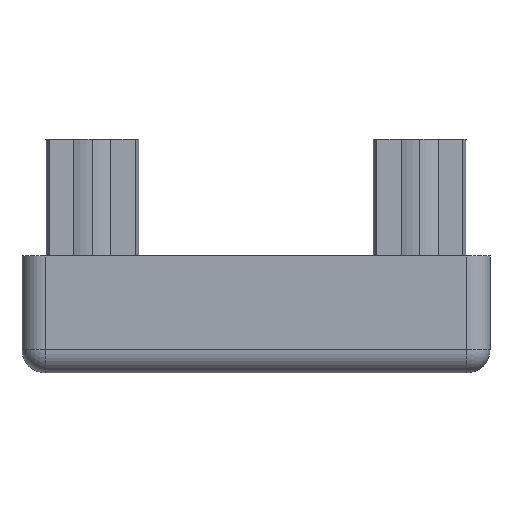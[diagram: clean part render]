
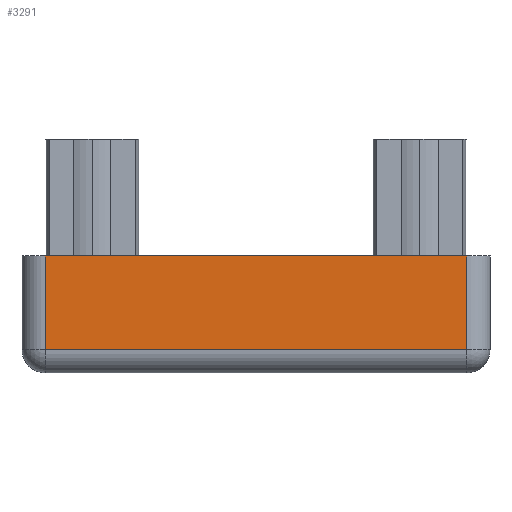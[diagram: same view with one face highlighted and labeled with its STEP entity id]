
A CAD part, left-side view. The second image highlights one B-rep face of the part: STEP entity #3291.
In plain terms, the highlighted planar face has unit normal (-1, 0, 0).
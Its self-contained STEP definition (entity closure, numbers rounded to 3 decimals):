
#188 = CARTESIAN_POINT ( 'NONE',  ( -10., -10., 5. ) ) ;
#291 = LINE ( 'NONE', #923, #1754 ) ;
#547 = VERTEX_POINT ( 'NONE', #863 ) ;
#863 = CARTESIAN_POINT ( 'NONE',  ( -10., 9., 1. ) ) ;
#909 = DIRECTION ( 'NONE',  ( 1., 0., 0. ) ) ;
#911 = EDGE_CURVE ( 'NONE', #1986, #547, #2917, .T. ) ;
#923 = CARTESIAN_POINT ( 'NONE',  ( -10., -10., 1. ) ) ;
#992 = VERTEX_POINT ( 'NONE', #2885 ) ;
#1001 = ORIENTED_EDGE ( 'NONE', *, *, #2352, .T. ) ;
#1066 = FACE_OUTER_BOUND ( 'NONE', #1207, .T. ) ;
#1114 = CARTESIAN_POINT ( 'NONE',  ( -10., -9., 1. ) ) ;
#1134 = CARTESIAN_POINT ( 'NONE',  ( -10., -9., 5. ) ) ;
#1207 = EDGE_LOOP ( 'NONE', ( #2127, #1001, #1983, #3146 ) ) ;
#1728 = DIRECTION ( 'NONE',  ( 0., -1., 0. ) ) ;
#1754 = VECTOR ( 'NONE', #2747, 1000. ) ;
#1832 = VECTOR ( 'NONE', #1728, 1000. ) ;
#1836 = LINE ( 'NONE', #1134, #3153 ) ;
#1911 = DIRECTION ( 'NONE',  ( 0., 0., 1. ) ) ;
#1938 = CARTESIAN_POINT ( 'NONE',  ( -10., -10., 5. ) ) ;
#1983 = ORIENTED_EDGE ( 'NONE', *, *, #2794, .F. ) ;
#1986 = VERTEX_POINT ( 'NONE', #2025 ) ;
#2018 = AXIS2_PLACEMENT_3D ( 'NONE', #1938, #909, #2738 ) ;
#2025 = CARTESIAN_POINT ( 'NONE',  ( -10., 9., 5. ) ) ;
#2127 = ORIENTED_EDGE ( 'NONE', *, *, #3299, .T. ) ;
#2280 = DIRECTION ( 'NONE',  ( 0., 0., -1. ) ) ;
#2304 = VERTEX_POINT ( 'NONE', #1114 ) ;
#2352 = EDGE_CURVE ( 'NONE', #2304, #992, #1836, .T. ) ;
#2540 = LINE ( 'NONE', #188, #1832 ) ;
#2738 = DIRECTION ( 'NONE',  ( 0., 0., -1. ) ) ;
#2747 = DIRECTION ( 'NONE',  ( 0., -1., 0. ) ) ;
#2794 = EDGE_CURVE ( 'NONE', #1986, #992, #2540, .T. ) ;
#2840 = VECTOR ( 'NONE', #2280, 1000. ) ;
#2885 = CARTESIAN_POINT ( 'NONE',  ( -10., -9., 5. ) ) ;
#2917 = LINE ( 'NONE', #3331, #2840 ) ;
#3146 = ORIENTED_EDGE ( 'NONE', *, *, #911, .T. ) ;
#3153 = VECTOR ( 'NONE', #1911, 1000. ) ;
#3243 = PLANE ( 'NONE',  #2018 ) ;
#3291 = ADVANCED_FACE ( 'NONE', ( #1066 ), #3243, .F. ) ;
#3299 = EDGE_CURVE ( 'NONE', #547, #2304, #291, .T. ) ;
#3331 = CARTESIAN_POINT ( 'NONE',  ( -10., 9., 5. ) ) ;
